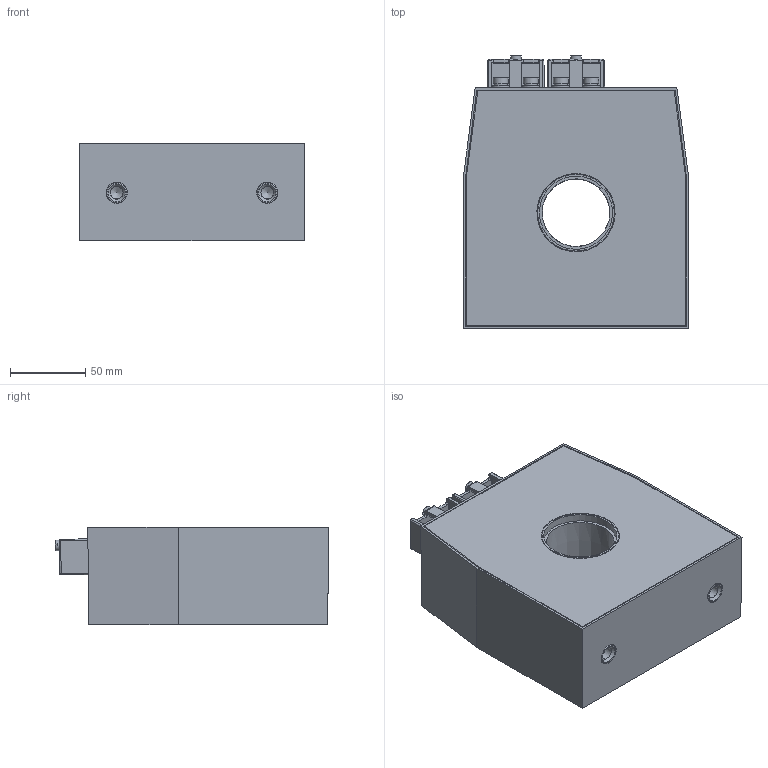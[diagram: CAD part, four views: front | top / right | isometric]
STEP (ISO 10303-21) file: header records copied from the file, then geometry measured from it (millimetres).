
FILE_DESCRIPTION(('STEP AP203'), '1');
FILE_NAME('ÒØÏ-ÍÒÇ-0,66-61À (45 ìì, 1-é ãàáàðèò)', '2025-08-27T09:21:26', ('UNSPECIFIED'), ('UNSPECIFIED'), 'ASCON STEP Converter 1.3', 'ASCON Math Kernel', '');
FILE_SCHEMA(('CONFIG_CONTROL_DESIGN'));
Length unit declared in the file: millimetre
Assembly tree (27 placements, depth 2):
  (unnamed)
    (unnamed)
    (unnamed)
    (unnamed)  x2
    (unnamed)
    (unnamed)  x4
    (unnamed)  x2
    (unnamed)  x4
    (unnamed)  x4
    (unnamed)  x4
    (unnamed)  x2
    (unnamed)  x2
Bounding box: 150 x 181.52 x 65 mm (x, y, z)
Volume: 349716.1 mm3; surface area: 208221.2 mm2
Topology: 27 solids, 27 shells, 406 faces, 890 edges, 550 vertices
Faces by surface type: plane 208, cylinder 113, cone 57, bspline 16, torus 12
Full cylindrical faces by diameter (mm): 3.244 x2, 4 x6, 4.5 x2, 4.8 x4, 4.92 x4, 6 x4, 6.4 x4, 7 x2, 7.1 x4, 8 x2, 8.376 x2, 10 x8, 10.1 x4, 12 x8, 14 x4, 17 x2, 45 x1, 48.599 x2, 48.6 x1, 51 x1, 55.05 x1, 58.6 x1, 65.05 x1, 68.6 x1
Entity records: 9368 total; most frequent: CARTESIAN_POINT 2146, DIRECTION 974, ORIENTED_EDGE 816, EDGE_CURVE 408, AXIS2_PLACEMENT_3D 370, EDGE_LOOP 312, VERTEX_POINT 294, LINE 234
